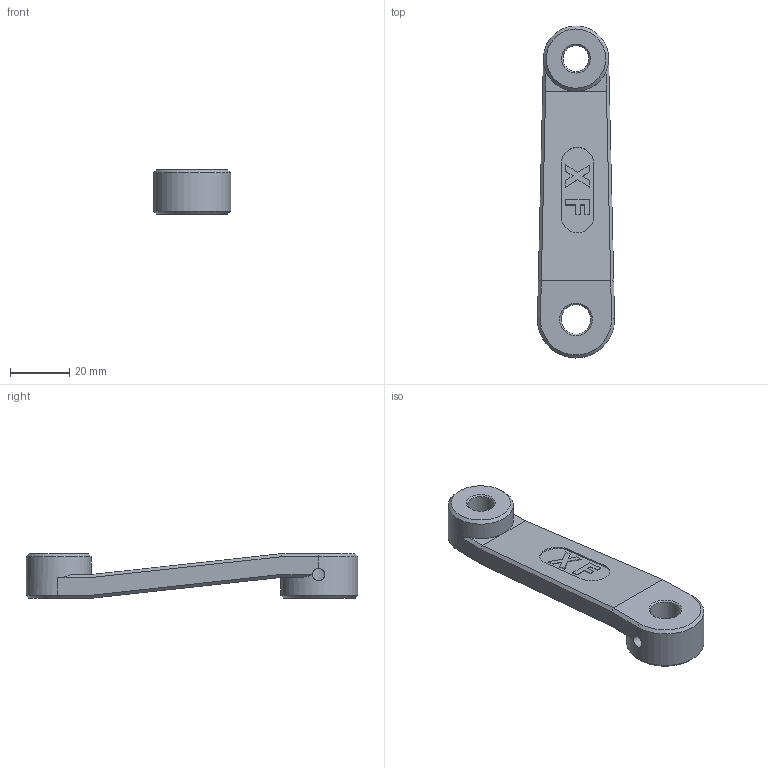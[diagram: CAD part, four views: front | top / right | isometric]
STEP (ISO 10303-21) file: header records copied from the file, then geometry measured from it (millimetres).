
FILE_DESCRIPTION(/* description */ (''),/* implementation_level */ '2;1');
FILE_NAME(/* name */ 'D:\IN 制图\设备\手动剥线机带侧刀4.02\工程图\M10摇把.stp',/* time_stamp */ '2026-06-21T16:57:33+08:00',/* author */ ('ROG'),/* organization */ (''),/* preprocessor_version */ 'ST-DEVELOPER v19',/* originating_system */ 'Autodesk Inventor 2023',/* authorisation */ '');
FILE_SCHEMA (('AUTOMOTIVE_DESIGN { 1 0 10303 214 3 1 1 }'));
Length unit declared in the file: millimetre
Products named in the file (1): M10-15摇把
Bounding box: 26 x 112 x 15 mm (x, y, z)
Volume: 24191.4 mm3; surface area: 8640.8 mm2
Topology: 1 solids, 1 shells, 67 faces, 176 edges, 113 vertices
Faces by surface type: plane 51, cylinder 8, cone 8
Full cylindrical faces by diameter (mm): 4.134 x2, 8.788 x1, 10 x1, 22 x1, 26 x1
Entity records: 2300 total; most frequent: CARTESIAN_POINT 477, ORIENTED_EDGE 352, DIRECTION 342, EDGE_CURVE 176, LINE 132, VECTOR 132, VERTEX_POINT 112, AXIS2_PLACEMENT_3D 105
